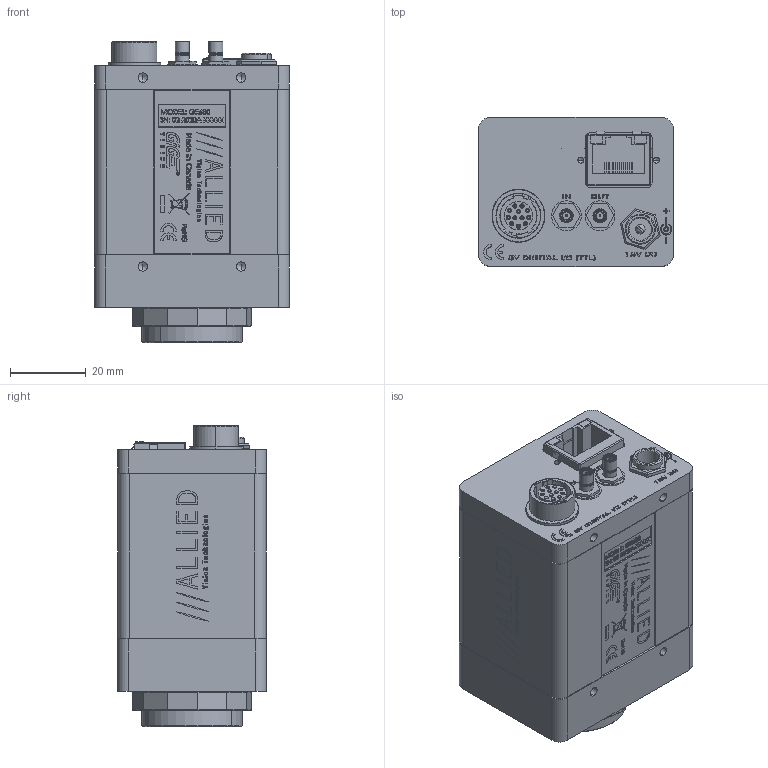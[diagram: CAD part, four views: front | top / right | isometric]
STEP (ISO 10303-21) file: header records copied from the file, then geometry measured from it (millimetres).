
FILE_DESCRIPTION (( 'STEP AP214' ), '1' );
FILE_NAME ('GE680.STEP', '2013-07-31T21:03:35', ( '' ), ( '' ), 'SwSTEP 2.0', 'SolidWorks 2013', '' );
FILE_SCHEMA (( 'AUTOMOTIVE_DESIGN' ));
Length unit declared in the file: millimetre
Products named in the file (36): 140000-AMPHENOL 903-10408-1; 200033A-GE680M SENSOR PCB ASSY W SENSOR; 100000AA-CV SMB GROUNDING ASSEMBLY; 220084-KODAK KAI-0340DM; 270006-JUMPER WIRE MODIFIED; KODAK KAI-0340D WINDOW; 140001-AMPHENOL 903-10409-1; KODAK KAI-0340D BODY; 140034-SWITCHCRAFT P10149 WITH WIRE; 110003AC-CV CMOUNT RING; 270006-JUMPER WIRE 18MM LONG; 740045A-A GE680M LABEL PRINT; 140034-SWITCHCRAFT P10149; 100137A - GE CAMERA BACK ASSEMBLY - for GE680; 140002-KEYSTONE 349; 140015-screw pan head phillips 4-40 x 0.1875; 200031B-A GE INTERFACE PCB ASSY; 260029 BELFUSE 0826-1C1T-23; 110036B GE COVER EXTRUDED SHORT WITH LOGO_Finished; 100051B - GE BACKPLATE ASSY; 140008-washer spring lock #4; 110033B-C GE BACK PLATE; 740031B-GE SERIES LABEL; 260014-SWITCHCRAFT PC712A; 140007-screw socket head cap #4-40x2; 260010-HIROSE HR10A-10R-12SB WASHER; 260014-SWITCHCRAFT PC712A NUT; 100073A - GE680M FRONT ASSY; GE680; 110093A-GE BACKPLATE GASKET; 110031A-B EC-CCD LOCKING RING; 260009-AMPHENOL 903-406J-51R; 110034A GE FRONT PLATE; 260010-HIROSE HR10A-10R-12SB; 110049AA-GE-CCD DUST SHIELD GASKET SMALL; 260010-HIROSE HR10A-10R-12SB NUT
Assembly tree (49 placements, depth 5):
  GE680
    140007-screw socket head cap #4-40x2  x4
    740031B-GE SERIES LABEL
    140008-washer spring lock #4  x4
    110036B GE COVER EXTRUDED SHORT WITH LOGO_Finished
    100137A - GE CAMERA BACK ASSEMBLY - for GE680
      140008-washer spring lock #4  x2
      140015-screw pan head phillips 4-40 x 0.1875
      100051B - GE BACKPLATE ASSY
        140002-KEYSTONE 349  x4
        140034-SWITCHCRAFT P10149 WITH WIRE
          140034-SWITCHCRAFT P10149
          270006-JUMPER WIRE 18MM LONG
        100000AA-CV SMB GROUNDING ASSEMBLY  x2
          140001-AMPHENOL 903-10409-1
          270006-JUMPER WIRE MODIFIED
        140000-AMPHENOL 903-10408-1  x2
        260010-HIROSE HR10A-10R-12SB NUT
        260010-HIROSE HR10A-10R-12SB
        260009-AMPHENOL 903-406J-51R  x2
        110093A-GE BACKPLATE GASKET
        260014-SWITCHCRAFT PC712A NUT
        260010-HIROSE HR10A-10R-12SB WASHER
        260014-SWITCHCRAFT PC712A
        110033B-C GE BACK PLATE
      200031B-A GE INTERFACE PCB ASSY
        260029 BELFUSE 0826-1C1T-23
    740045A-A GE680M LABEL PRINT
    100073A - GE680M FRONT ASSY
      110003AC-CV CMOUNT RING
      200033A-GE680M SENSOR PCB ASSY W SENSOR
        220084-KODAK KAI-0340DM
          KODAK KAI-0340D BODY
          KODAK KAI-0340D WINDOW
      110049AA-GE-CCD DUST SHIELD GASKET SMALL
      110034A GE FRONT PLATE
      110031A-B EC-CCD LOCKING RING
Bounding box: 51.56 x 39.37 x 79.76 mm (x, y, z)
Volume: 49232.9 mm3; surface area: 66469.2 mm2
Topology: 73 solids, 73 shells, 3927 faces, 10024 edges, 6533 vertices
Faces by surface type: plane 2215, bspline 902, cylinder 580, cone 230
Entity records: 186148 total; most frequent: CARTESIAN_POINT 58860, ORIENTED_EDGE 18918, DIRECTION 14713, EDGE_CURVE 9459, LINE 6481, VECTOR 6481, VERTEX_POINT 6191, AXIS2_PLACEMENT_3D 4116
